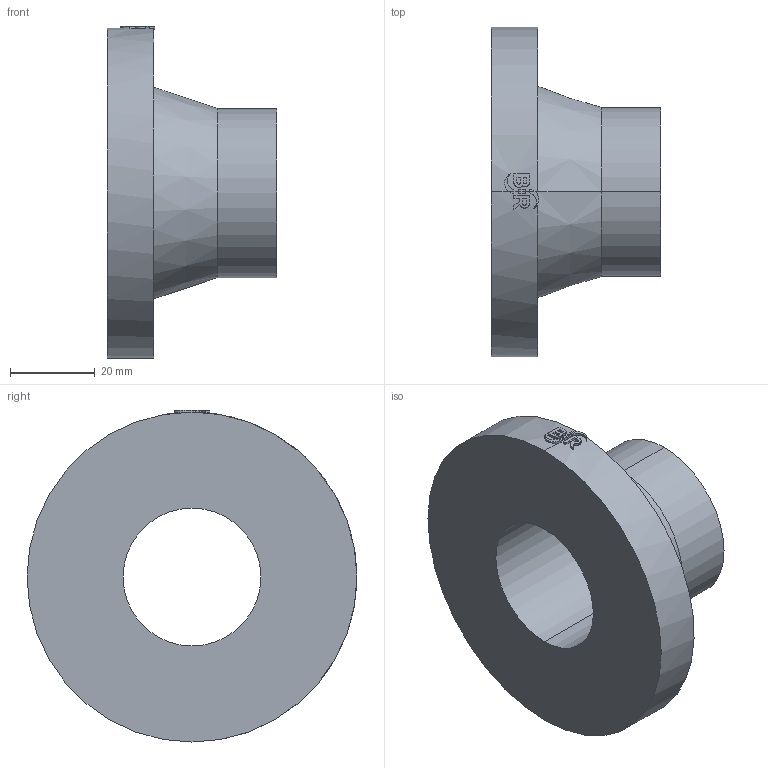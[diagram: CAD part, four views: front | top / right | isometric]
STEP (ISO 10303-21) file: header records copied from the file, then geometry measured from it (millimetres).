
FILE_DESCRIPTION (( 'STEP AP214' ), '1' );
FILE_NAME ('233509F015.STEP', '2018-07-20T10:09:41', ( '' ), ( '' ), 'SwSTEP 2.0', 'SolidWorks 2017', '' );
FILE_SCHEMA (( 'AUTOMOTIVE_DESIGN' ));
Length unit declared in the file: millimetre
Products named in the file (1): 233509F015
Bounding box: 40 x 78 x 78.5 mm (x, y, z)
Volume: 60733.7 mm3; surface area: 18002.8 mm2
Topology: 1 solids, 1 shells, 62 faces, 160 edges, 106 vertices
Faces by surface type: cylinder 30, plane 30, cone 2
Entity records: 2847 total; most frequent: CARTESIAN_POINT 651, ORIENTED_EDGE 320, DIRECTION 295, EDGE_CURVE 160, AXIS2_PLACEMENT_3D 112, VERTEX_POINT 106, VECTOR 71, LINE 71
